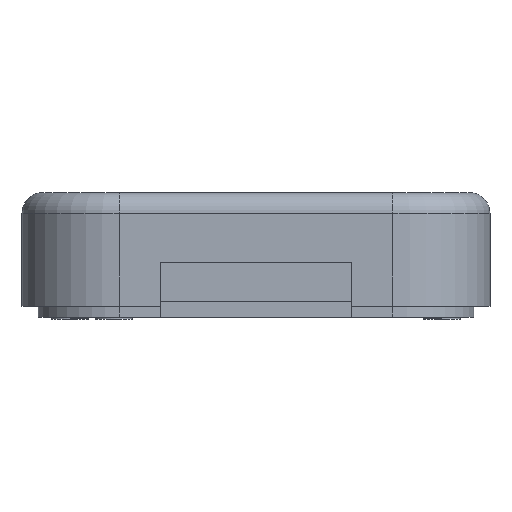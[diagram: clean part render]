
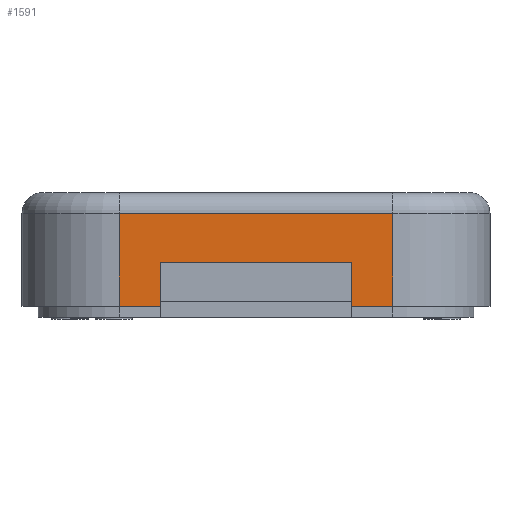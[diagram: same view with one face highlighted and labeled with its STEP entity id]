
A CAD part, front view. The second image highlights one B-rep face of the part: STEP entity #1591.
In plain terms, the highlighted planar face has unit normal (0, -1, 0).
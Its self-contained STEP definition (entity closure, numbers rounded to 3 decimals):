
#44 = CYLINDRICAL_SURFACE('',#45,17.8);
#45 = AXIS2_PLACEMENT_3D('',#46,#47,#48);
#46 = CARTESIAN_POINT('',(-25.,-49.,-12.8));
#47 = DIRECTION('',(0.,0.,1.));
#48 = DIRECTION('',(-1.,-0.,0.));
#72 = PLANE('',#73);
#73 = AXIS2_PLACEMENT_3D('',#74,#75,#76);
#74 = CARTESIAN_POINT('',(-100.,-110.,-8.));
#75 = DIRECTION('',(0.,0.,1.));
#76 = DIRECTION('',(1.,0.,-0.));
#373 = VERTEX_POINT('',#374);
#374 = CARTESIAN_POINT('',(-25.,-66.8,-8.));
#396 = EDGE_CURVE('',#373,#397,#399,.T.);
#397 = VERTEX_POINT('',#398);
#398 = CARTESIAN_POINT('',(-25.,-66.8,9.));
#399 = SURFACE_CURVE('',#400,(#404,#411),.PCURVE_S1.);
#400 = LINE('',#401,#402);
#401 = CARTESIAN_POINT('',(-25.,-66.8,-12.8));
#402 = VECTOR('',#403,1.);
#403 = DIRECTION('',(0.,0.,1.));
#404 = PCURVE('',#44,#405);
#405 = DEFINITIONAL_REPRESENTATION('',(#406),#410);
#406 = LINE('',#407,#408);
#407 = CARTESIAN_POINT('',(1.571,0.));
#408 = VECTOR('',#409,1.);
#409 = DIRECTION('',(0.,1.));
#410 = ( GEOMETRIC_REPRESENTATION_CONTEXT(2) 
PARAMETRIC_REPRESENTATION_CONTEXT() REPRESENTATION_CONTEXT('2D SPACE',''
  ) );
#411 = PCURVE('',#412,#417);
#412 = PLANE('',#413);
#413 = AXIS2_PLACEMENT_3D('',#414,#415,#416);
#414 = CARTESIAN_POINT('',(-42.8,-66.8,-12.8));
#415 = DIRECTION('',(0.,1.,0.));
#416 = DIRECTION('',(0.,-0.,1.));
#417 = DEFINITIONAL_REPRESENTATION('',(#418),#422);
#418 = LINE('',#419,#420);
#419 = CARTESIAN_POINT('',(0.,17.8));
#420 = VECTOR('',#421,1.);
#421 = DIRECTION('',(1.,0.));
#422 = ( GEOMETRIC_REPRESENTATION_CONTEXT(2) 
PARAMETRIC_REPRESENTATION_CONTEXT() REPRESENTATION_CONTEXT('2D SPACE',''
  ) );
#508 = EDGE_CURVE('',#373,#509,#511,.T.);
#509 = VERTEX_POINT('',#510);
#510 = CARTESIAN_POINT('',(-17.5,-66.8,-8.));
#511 = SURFACE_CURVE('',#512,(#516,#523),.PCURVE_S1.);
#512 = LINE('',#513,#514);
#513 = CARTESIAN_POINT('',(-71.4,-66.8,-8.));
#514 = VECTOR('',#515,1.);
#515 = DIRECTION('',(1.,0.,0.));
#516 = PCURVE('',#72,#517);
#517 = DEFINITIONAL_REPRESENTATION('',(#518),#522);
#518 = LINE('',#519,#520);
#519 = CARTESIAN_POINT('',(28.6,43.2));
#520 = VECTOR('',#521,1.);
#521 = DIRECTION('',(1.,0.));
#522 = ( GEOMETRIC_REPRESENTATION_CONTEXT(2) 
PARAMETRIC_REPRESENTATION_CONTEXT() REPRESENTATION_CONTEXT('2D SPACE',''
  ) );
#523 = PCURVE('',#412,#524);
#524 = DEFINITIONAL_REPRESENTATION('',(#525),#529);
#525 = LINE('',#526,#527);
#526 = CARTESIAN_POINT('',(4.8,-28.6));
#527 = VECTOR('',#528,1.);
#528 = DIRECTION('',(0.,1.));
#529 = ( GEOMETRIC_REPRESENTATION_CONTEXT(2) 
PARAMETRIC_REPRESENTATION_CONTEXT() REPRESENTATION_CONTEXT('2D SPACE',''
  ) );
#547 = PLANE('',#548);
#548 = AXIS2_PLACEMENT_3D('',#549,#550,#551);
#549 = CARTESIAN_POINT('',(-17.5,-74.,-12.));
#550 = DIRECTION('',(1.,0.,0.));
#551 = DIRECTION('',(0.,0.,1.));
#1591 = ADVANCED_FACE('',(#1592),#412,.F.);
#1592 = FACE_BOUND('',#1593,.F.);
#1593 = EDGE_LOOP('',(#1594,#1595,#1596,#1624,#1652,#1680,#1708,#1736));
#1594 = ORIENTED_EDGE('',*,*,#508,.F.);
#1595 = ORIENTED_EDGE('',*,*,#396,.T.);
#1596 = ORIENTED_EDGE('',*,*,#1597,.F.);
#1597 = EDGE_CURVE('',#1598,#397,#1600,.T.);
#1598 = VERTEX_POINT('',#1599);
#1599 = CARTESIAN_POINT('',(25.,-66.8,9.));
#1600 = SURFACE_CURVE('',#1601,(#1605,#1612),.PCURVE_S1.);
#1601 = LINE('',#1602,#1603);
#1602 = CARTESIAN_POINT('',(25.,-66.8,9.));
#1603 = VECTOR('',#1604,1.);
#1604 = DIRECTION('',(-1.,-0.,-0.));
#1605 = PCURVE('',#412,#1606);
#1606 = DEFINITIONAL_REPRESENTATION('',(#1607),#1611);
#1607 = LINE('',#1608,#1609);
#1608 = CARTESIAN_POINT('',(21.8,67.8));
#1609 = VECTOR('',#1610,1.);
#1610 = DIRECTION('',(0.,-1.));
#1611 = ( GEOMETRIC_REPRESENTATION_CONTEXT(2) 
PARAMETRIC_REPRESENTATION_CONTEXT() REPRESENTATION_CONTEXT('2D SPACE',''
  ) );
#1612 = PCURVE('',#1613,#1618);
#1613 = CYLINDRICAL_SURFACE('',#1614,3.8);
#1614 = AXIS2_PLACEMENT_3D('',#1615,#1616,#1617);
#1615 = CARTESIAN_POINT('',(25.,-63.,9.));
#1616 = DIRECTION('',(-1.,-0.,-0.));
#1617 = DIRECTION('',(0.,-1.,0.));
#1618 = DEFINITIONAL_REPRESENTATION('',(#1619),#1623);
#1619 = LINE('',#1620,#1621);
#1620 = CARTESIAN_POINT('',(0.,0.));
#1621 = VECTOR('',#1622,1.);
#1622 = DIRECTION('',(0.,1.));
#1623 = ( GEOMETRIC_REPRESENTATION_CONTEXT(2) 
PARAMETRIC_REPRESENTATION_CONTEXT() REPRESENTATION_CONTEXT('2D SPACE',''
  ) );
#1624 = ORIENTED_EDGE('',*,*,#1625,.F.);
#1625 = EDGE_CURVE('',#1626,#1598,#1628,.T.);
#1626 = VERTEX_POINT('',#1627);
#1627 = CARTESIAN_POINT('',(25.,-66.8,-8.));
#1628 = SURFACE_CURVE('',#1629,(#1633,#1640),.PCURVE_S1.);
#1629 = LINE('',#1630,#1631);
#1630 = CARTESIAN_POINT('',(25.,-66.8,-12.8));
#1631 = VECTOR('',#1632,1.);
#1632 = DIRECTION('',(0.,0.,1.));
#1633 = PCURVE('',#412,#1634);
#1634 = DEFINITIONAL_REPRESENTATION('',(#1635),#1639);
#1635 = LINE('',#1636,#1637);
#1636 = CARTESIAN_POINT('',(0.,67.8));
#1637 = VECTOR('',#1638,1.);
#1638 = DIRECTION('',(1.,0.));
#1639 = ( GEOMETRIC_REPRESENTATION_CONTEXT(2) 
PARAMETRIC_REPRESENTATION_CONTEXT() REPRESENTATION_CONTEXT('2D SPACE',''
  ) );
#1640 = PCURVE('',#1641,#1646);
#1641 = CYLINDRICAL_SURFACE('',#1642,17.8);
#1642 = AXIS2_PLACEMENT_3D('',#1643,#1644,#1645);
#1643 = CARTESIAN_POINT('',(25.,-49.,-12.8));
#1644 = DIRECTION('',(0.,0.,1.));
#1645 = DIRECTION('',(1.,0.,-0.));
#1646 = DEFINITIONAL_REPRESENTATION('',(#1647),#1651);
#1647 = LINE('',#1648,#1649);
#1648 = CARTESIAN_POINT('',(4.712,0.));
#1649 = VECTOR('',#1650,1.);
#1650 = DIRECTION('',(-0.,1.));
#1651 = ( GEOMETRIC_REPRESENTATION_CONTEXT(2) 
PARAMETRIC_REPRESENTATION_CONTEXT() REPRESENTATION_CONTEXT('2D SPACE',''
  ) );
#1652 = ORIENTED_EDGE('',*,*,#1653,.F.);
#1653 = EDGE_CURVE('',#1654,#1626,#1656,.T.);
#1654 = VERTEX_POINT('',#1655);
#1655 = CARTESIAN_POINT('',(17.5,-66.8,-8.));
#1656 = SURFACE_CURVE('',#1657,(#1661,#1668),.PCURVE_S1.);
#1657 = LINE('',#1658,#1659);
#1658 = CARTESIAN_POINT('',(-71.4,-66.8,-8.));
#1659 = VECTOR('',#1660,1.);
#1660 = DIRECTION('',(1.,0.,0.));
#1661 = PCURVE('',#412,#1662);
#1662 = DEFINITIONAL_REPRESENTATION('',(#1663),#1667);
#1663 = LINE('',#1664,#1665);
#1664 = CARTESIAN_POINT('',(4.8,-28.6));
#1665 = VECTOR('',#1666,1.);
#1666 = DIRECTION('',(0.,1.));
#1667 = ( GEOMETRIC_REPRESENTATION_CONTEXT(2) 
PARAMETRIC_REPRESENTATION_CONTEXT() REPRESENTATION_CONTEXT('2D SPACE',''
  ) );
#1668 = PCURVE('',#1669,#1674);
#1669 = PLANE('',#1670);
#1670 = AXIS2_PLACEMENT_3D('',#1671,#1672,#1673);
#1671 = CARTESIAN_POINT('',(-100.,-110.,-8.));
#1672 = DIRECTION('',(0.,0.,1.));
#1673 = DIRECTION('',(1.,0.,-0.));
#1674 = DEFINITIONAL_REPRESENTATION('',(#1675),#1679);
#1675 = LINE('',#1676,#1677);
#1676 = CARTESIAN_POINT('',(28.6,43.2));
#1677 = VECTOR('',#1678,1.);
#1678 = DIRECTION('',(1.,0.));
#1679 = ( GEOMETRIC_REPRESENTATION_CONTEXT(2) 
PARAMETRIC_REPRESENTATION_CONTEXT() REPRESENTATION_CONTEXT('2D SPACE',''
  ) );
#1680 = ORIENTED_EDGE('',*,*,#1681,.F.);
#1681 = EDGE_CURVE('',#1682,#1654,#1684,.T.);
#1682 = VERTEX_POINT('',#1683);
#1683 = CARTESIAN_POINT('',(17.5,-66.8,0.));
#1684 = SURFACE_CURVE('',#1685,(#1689,#1696),.PCURVE_S1.);
#1685 = LINE('',#1686,#1687);
#1686 = CARTESIAN_POINT('',(17.5,-66.8,-12.4));
#1687 = VECTOR('',#1688,1.);
#1688 = DIRECTION('',(0.,0.,-1.));
#1689 = PCURVE('',#412,#1690);
#1690 = DEFINITIONAL_REPRESENTATION('',(#1691),#1695);
#1691 = LINE('',#1692,#1693);
#1692 = CARTESIAN_POINT('',(0.4,60.3));
#1693 = VECTOR('',#1694,1.);
#1694 = DIRECTION('',(-1.,0.));
#1695 = ( GEOMETRIC_REPRESENTATION_CONTEXT(2) 
PARAMETRIC_REPRESENTATION_CONTEXT() REPRESENTATION_CONTEXT('2D SPACE',''
  ) );
#1696 = PCURVE('',#1697,#1702);
#1697 = PLANE('',#1698);
#1698 = AXIS2_PLACEMENT_3D('',#1699,#1700,#1701);
#1699 = CARTESIAN_POINT('',(17.5,-74.,-12.));
#1700 = DIRECTION('',(1.,0.,0.));
#1701 = DIRECTION('',(0.,0.,1.));
#1702 = DEFINITIONAL_REPRESENTATION('',(#1703),#1707);
#1703 = LINE('',#1704,#1705);
#1704 = CARTESIAN_POINT('',(-0.4,-7.2));
#1705 = VECTOR('',#1706,1.);
#1706 = DIRECTION('',(-1.,0.));
#1707 = ( GEOMETRIC_REPRESENTATION_CONTEXT(2) 
PARAMETRIC_REPRESENTATION_CONTEXT() REPRESENTATION_CONTEXT('2D SPACE',''
  ) );
#1708 = ORIENTED_EDGE('',*,*,#1709,.F.);
#1709 = EDGE_CURVE('',#1710,#1682,#1712,.T.);
#1710 = VERTEX_POINT('',#1711);
#1711 = CARTESIAN_POINT('',(-17.5,-66.8,0.));
#1712 = SURFACE_CURVE('',#1713,(#1717,#1724),.PCURVE_S1.);
#1713 = LINE('',#1714,#1715);
#1714 = CARTESIAN_POINT('',(-30.15,-66.8,0.));
#1715 = VECTOR('',#1716,1.);
#1716 = DIRECTION('',(1.,0.,0.));
#1717 = PCURVE('',#412,#1718);
#1718 = DEFINITIONAL_REPRESENTATION('',(#1719),#1723);
#1719 = LINE('',#1720,#1721);
#1720 = CARTESIAN_POINT('',(12.8,12.65));
#1721 = VECTOR('',#1722,1.);
#1722 = DIRECTION('',(0.,1.));
#1723 = ( GEOMETRIC_REPRESENTATION_CONTEXT(2) 
PARAMETRIC_REPRESENTATION_CONTEXT() REPRESENTATION_CONTEXT('2D SPACE',''
  ) );
#1724 = PCURVE('',#1725,#1730);
#1725 = PLANE('',#1726);
#1726 = AXIS2_PLACEMENT_3D('',#1727,#1728,#1729);
#1727 = CARTESIAN_POINT('',(-17.5,-74.,0.));
#1728 = DIRECTION('',(0.,0.,1.));
#1729 = DIRECTION('',(1.,0.,-0.));
#1730 = DEFINITIONAL_REPRESENTATION('',(#1731),#1735);
#1731 = LINE('',#1732,#1733);
#1732 = CARTESIAN_POINT('',(-12.65,7.2));
#1733 = VECTOR('',#1734,1.);
#1734 = DIRECTION('',(1.,0.));
#1735 = ( GEOMETRIC_REPRESENTATION_CONTEXT(2) 
PARAMETRIC_REPRESENTATION_CONTEXT() REPRESENTATION_CONTEXT('2D SPACE',''
  ) );
#1736 = ORIENTED_EDGE('',*,*,#1737,.T.);
#1737 = EDGE_CURVE('',#1710,#509,#1738,.T.);
#1738 = SURFACE_CURVE('',#1739,(#1743,#1750),.PCURVE_S1.);
#1739 = LINE('',#1740,#1741);
#1740 = CARTESIAN_POINT('',(-17.5,-66.8,-12.4));
#1741 = VECTOR('',#1742,1.);
#1742 = DIRECTION('',(0.,0.,-1.));
#1743 = PCURVE('',#412,#1744);
#1744 = DEFINITIONAL_REPRESENTATION('',(#1745),#1749);
#1745 = LINE('',#1746,#1747);
#1746 = CARTESIAN_POINT('',(0.4,25.3));
#1747 = VECTOR('',#1748,1.);
#1748 = DIRECTION('',(-1.,0.));
#1749 = ( GEOMETRIC_REPRESENTATION_CONTEXT(2) 
PARAMETRIC_REPRESENTATION_CONTEXT() REPRESENTATION_CONTEXT('2D SPACE',''
  ) );
#1750 = PCURVE('',#547,#1751);
#1751 = DEFINITIONAL_REPRESENTATION('',(#1752),#1756);
#1752 = LINE('',#1753,#1754);
#1753 = CARTESIAN_POINT('',(-0.4,-7.2));
#1754 = VECTOR('',#1755,1.);
#1755 = DIRECTION('',(-1.,0.));
#1756 = ( GEOMETRIC_REPRESENTATION_CONTEXT(2) 
PARAMETRIC_REPRESENTATION_CONTEXT() REPRESENTATION_CONTEXT('2D SPACE',''
  ) );
